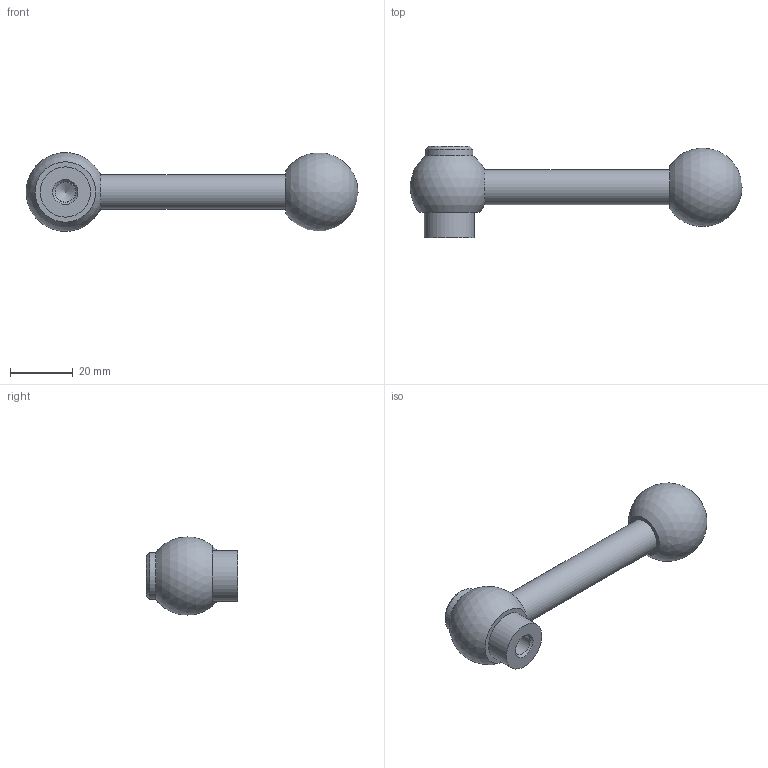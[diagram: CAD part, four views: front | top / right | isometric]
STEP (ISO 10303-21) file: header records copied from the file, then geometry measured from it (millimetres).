
FILE_DESCRIPTION( ( 'STEP AP203' ), '1' );
FILE_NAME( 'C:/Temp/Ganter_Step_05_03_2020/data/2_1/gn_6337_3/gn_6337_3_mb/gn_6337_3_mb_m/Adjustable clamping lever GN 6337.3-25-M8-M.stp', '2020-03-05T11:41:10', ( 'License CC BY-ND 4.0' ), ( 'CADENAS' ), ' ', 'PARTsolutions', ' ' );
FILE_SCHEMA( ( 'CONFIG_CONTROL_DESIGN' ) );
Length unit declared in the file: millimetre
Products named in the file (1): _Adjustable clamping lever GN 6337.3-25-M8-M
Bounding box: 105.5 x 29 x 24.82 mm (x, y, z)
Volume: 22331.2 mm3; surface area: 6522.4 mm2
Topology: 1 solids, 1 shells, 15 faces, 31 edges, 20 vertices
Faces by surface type: cylinder 5, plane 5, cone 3, sphere 2
Full cylindrical faces by diameter (mm): 6.4 x1, 6.647 x1, 11 x1, 15 x1, 16 x1
Entity records: 346 total; most frequent: DIRECTION 60, CARTESIAN_POINT 46, AXIS2_PLACEMENT_3D 30, EDGE_LOOP 28, ORIENTED_EDGE 28, FACE_OUTER_BOUND 21, VERTEX_POINT 16, ADVANCED_FACE 15
